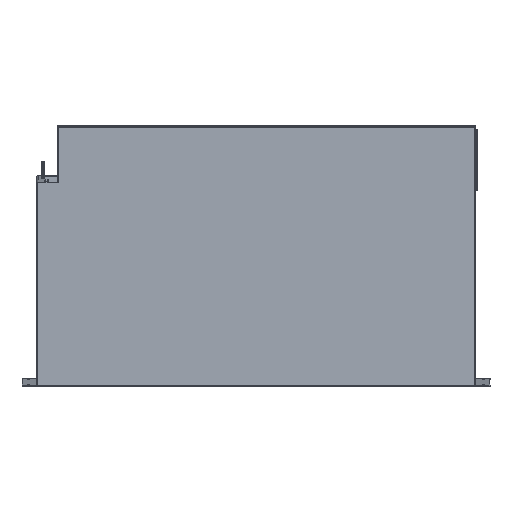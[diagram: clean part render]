
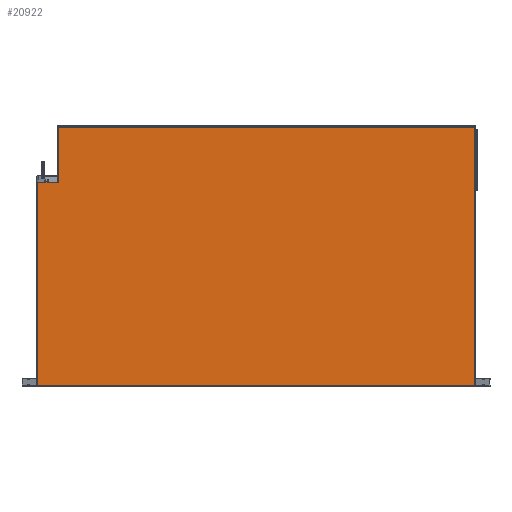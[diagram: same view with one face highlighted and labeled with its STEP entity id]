
A CAD part, front view. The second image highlights one B-rep face of the part: STEP entity #20922.
In plain terms, the highlighted planar face has unit normal (0, -1, 0) as drawn and (0, 0, -1) by its records, which use the part's own axes.
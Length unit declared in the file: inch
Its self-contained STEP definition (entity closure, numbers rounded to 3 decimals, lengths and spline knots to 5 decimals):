
#947 = LINE ( 'NONE', #1108, #16431 ) ;
#952 = VECTOR ( 'NONE', #15065, 39.37008 ) ;
#1108 = CARTESIAN_POINT ( 'NONE',  ( 11.99935, 42.66261, -0.06 ) ) ;
#1117 = CARTESIAN_POINT ( 'NONE',  ( 36.79265, 2.76816, -0.06 ) ) ;
#1228 = LINE ( 'NONE', #17107, #952 ) ;
#1262 = ORIENTED_EDGE ( 'NONE', *, *, #11849, .F. ) ;
#1387 = DIRECTION ( 'NONE',  ( 0., -1., 0. ) ) ;
#1460 = VERTEX_POINT ( 'NONE', #3161 ) ;
#1474 = PLANE ( 'NONE',  #21176 ) ;
#1967 = LINE ( 'NONE', #16677, #6698 ) ;
#2163 = LINE ( 'NONE', #3833, #12236 ) ;
#2252 = EDGE_CURVE ( 'NONE', #10615, #2945, #2693, .T. ) ;
#2693 = LINE ( 'NONE', #17754, #23759 ) ;
#2945 = VERTEX_POINT ( 'NONE', #19773 ) ;
#3161 = CARTESIAN_POINT ( 'NONE',  ( 11.93096, 0.77156, -0.06 ) ) ;
#3292 = VECTOR ( 'NONE', #19564, 39.37008 ) ;
#3506 = CARTESIAN_POINT ( 'NONE',  ( 11.93096, 42.66261, -0.06 ) ) ;
#3833 = CARTESIAN_POINT ( 'NONE',  ( 36.79265, 42.62886, -0.06 ) ) ;
#3901 = VERTEX_POINT ( 'NONE', #5127 ) ;
#4334 = CARTESIAN_POINT ( 'NONE',  ( 36.73265, 42.666, -0.06 ) ) ;
#4401 = VERTEX_POINT ( 'NONE', #23255 ) ;
#4518 = VERTEX_POINT ( 'NONE', #12620 ) ;
#4555 = DIRECTION ( 'NONE',  ( 0., -1., 0. ) ) ;
#4684 = DIRECTION ( 'NONE',  ( 0., -1., 0. ) ) ;
#4922 = ORIENTED_EDGE ( 'NONE', *, *, #18302, .T. ) ;
#5127 = CARTESIAN_POINT ( 'NONE',  ( 36.73265, 2.80531, -0.06 ) ) ;
#5515 = CARTESIAN_POINT ( 'NONE',  ( 36.73265, 2.80531, -0.06 ) ) ;
#5623 = VERTEX_POINT ( 'NONE', #3506 ) ;
#5699 = VERTEX_POINT ( 'NONE', #4334 ) ;
#6113 = CARTESIAN_POINT ( 'NONE',  ( 31.54265, 2.77156, -0.06 ) ) ;
#6509 = EDGE_CURVE ( 'NONE', #7453, #4401, #1228, .T. ) ;
#6538 = ORIENTED_EDGE ( 'NONE', *, *, #7070, .F. ) ;
#6698 = VECTOR ( 'NONE', #4555, 39.37008 ) ;
#7070 = EDGE_CURVE ( 'NONE', #3901, #4401, #12921, .T. ) ;
#7071 = LINE ( 'NONE', #6113, #21886 ) ;
#7449 = CARTESIAN_POINT ( 'NONE',  ( 11.99935, 42.72261, -0.06 ) ) ;
#7453 = VERTEX_POINT ( 'NONE', #24315 ) ;
#7505 = CARTESIAN_POINT ( 'NONE',  ( 31.54265, 2.77156, -0.06 ) ) ;
#7536 = DIRECTION ( 'NONE',  ( 0., 0., -1. ) ) ;
#7554 = EDGE_CURVE ( 'NONE', #7453, #10686, #2163, .T. ) ;
#7641 = CARTESIAN_POINT ( 'NONE',  ( 11.99935, 0.77156, -0.06 ) ) ;
#7662 = ORIENTED_EDGE ( 'NONE', *, *, #14288, .T. ) ;
#7981 = LINE ( 'NONE', #17569, #3292 ) ;
#8021 = ORIENTED_EDGE ( 'NONE', *, *, #22880, .T. ) ;
#8108 = VECTOR ( 'NONE', #23687, 39.37008 ) ;
#8120 = EDGE_CURVE ( 'NONE', #4518, #17350, #24888, .T. ) ;
#8123 = DIRECTION ( 'NONE',  ( -1., 0., 0. ) ) ;
#8134 = DIRECTION ( 'NONE',  ( -1., 0., 0. ) ) ;
#8136 = LINE ( 'NONE', #7449, #23644 ) ;
#8357 = FACE_OUTER_BOUND ( 'NONE', #20491, .T. ) ;
#8374 = ORIENTED_EDGE ( 'NONE', *, *, #2252, .F. ) ;
#8974 = VERTEX_POINT ( 'NONE', #7505 ) ;
#9113 = CARTESIAN_POINT ( 'NONE',  ( 11.99935, 42.66261, -0.06 ) ) ;
#9429 = CARTESIAN_POINT ( 'NONE',  ( 36.73265, 2.76816, -0.06 ) ) ;
#9595 = LINE ( 'NONE', #11595, #20311 ) ;
#9621 = LINE ( 'NONE', #17004, #15021 ) ;
#9838 = ORIENTED_EDGE ( 'NONE', *, *, #7554, .F. ) ;
#9953 = DIRECTION ( 'NONE',  ( -1., 0., 0. ) ) ;
#10019 = DIRECTION ( 'NONE',  ( 1., 0., 0. ) ) ;
#10207 = LINE ( 'NONE', #10658, #20314 ) ;
#10615 = VERTEX_POINT ( 'NONE', #7641 ) ;
#10658 = CARTESIAN_POINT ( 'NONE',  ( 36.73265, 42.78261, -0.06 ) ) ;
#10686 = VERTEX_POINT ( 'NONE', #12040 ) ;
#11092 = EDGE_CURVE ( 'NONE', #12065, #23229, #8136, .T. ) ;
#11370 = ORIENTED_EDGE ( 'NONE', *, *, #15657, .F. ) ;
#11595 = CARTESIAN_POINT ( 'NONE',  ( 36.79265, 42.666, -0.06 ) ) ;
#11849 = EDGE_CURVE ( 'NONE', #12737, #22285, #13798, .T. ) ;
#12040 = CARTESIAN_POINT ( 'NONE',  ( 36.73265, 42.62886, -0.06 ) ) ;
#12055 = CARTESIAN_POINT ( 'NONE',  ( 36.79265, 2.80531, -0.06 ) ) ;
#12065 = VERTEX_POINT ( 'NONE', #13896 ) ;
#12236 = VECTOR ( 'NONE', #9953, 39.37008 ) ;
#12620 = CARTESIAN_POINT ( 'NONE',  ( 31.41765, 0.76816, -0.06 ) ) ;
#12737 = VERTEX_POINT ( 'NONE', #24649 ) ;
#12921 = LINE ( 'NONE', #12055, #21740 ) ;
#13207 = DIRECTION ( 'NONE',  ( 1., 0., 0. ) ) ;
#13798 = LINE ( 'NONE', #1117, #23281 ) ;
#13884 = EDGE_CURVE ( 'NONE', #4518, #2945, #9621, .T. ) ;
#13896 = CARTESIAN_POINT ( 'NONE',  ( 11.99935, 42.666, -0.06 ) ) ;
#14288 = EDGE_CURVE ( 'NONE', #5699, #10686, #10207, .T. ) ;
#15021 = VECTOR ( 'NONE', #19012, 39.37008 ) ;
#15065 = DIRECTION ( 'NONE',  ( 0., -1., 0. ) ) ;
#15193 = LINE ( 'NONE', #5515, #25919 ) ;
#15657 = EDGE_CURVE ( 'NONE', #8974, #12737, #1967, .T. ) ;
#16250 = CARTESIAN_POINT ( 'NONE',  ( 31.41765, 2.77156, -0.06 ) ) ;
#16431 = VECTOR ( 'NONE', #25316, 39.37008 ) ;
#16677 = CARTESIAN_POINT ( 'NONE',  ( 31.54265, 2.71156, -0.06 ) ) ;
#17004 = CARTESIAN_POINT ( 'NONE',  ( 36.79265, 0.76816, -0.06 ) ) ;
#17107 = CARTESIAN_POINT ( 'NONE',  ( 36.73605, 42.62886, -0.06 ) ) ;
#17235 = ORIENTED_EDGE ( 'NONE', *, *, #8120, .F. ) ;
#17350 = VERTEX_POINT ( 'NONE', #16250 ) ;
#17569 = CARTESIAN_POINT ( 'NONE',  ( 11.93096, 42.62886, -0.06 ) ) ;
#17754 = CARTESIAN_POINT ( 'NONE',  ( 11.99935, -0.98147, -0.06 ) ) ;
#17792 = ORIENTED_EDGE ( 'NONE', *, *, #11092, .F. ) ;
#17826 = EDGE_CURVE ( 'NONE', #3901, #22285, #15193, .T. ) ;
#18126 = CARTESIAN_POINT ( 'NONE',  ( 11.99935, 0.77156, -0.06 ) ) ;
#18302 = EDGE_CURVE ( 'NONE', #5623, #23229, #947, .T. ) ;
#18883 = ORIENTED_EDGE ( 'NONE', *, *, #17826, .T. ) ;
#19012 = DIRECTION ( 'NONE',  ( -1., 0., 0. ) ) ;
#19229 = VECTOR ( 'NONE', #8123, 39.37008 ) ;
#19564 = DIRECTION ( 'NONE',  ( 0., 1., 0. ) ) ;
#19626 = CARTESIAN_POINT ( 'NONE',  ( 36.79265, 42.62886, -0.06 ) ) ;
#19640 = DIRECTION ( 'NONE',  ( 0., -1., 0. ) ) ;
#19773 = CARTESIAN_POINT ( 'NONE',  ( 11.99935, 0.76816, -0.06 ) ) ;
#20311 = VECTOR ( 'NONE', #21649, 39.37008 ) ;
#20314 = VECTOR ( 'NONE', #4684, 39.37008 ) ;
#20491 = EDGE_LOOP ( 'NONE', ( #17235, #21648, #8374, #24219, #24104, #4922, #17792, #23929, #7662, #9838, #21060, #6538, #18883, #1262, #11370, #8021 ) ) ;
#20922 = ADVANCED_FACE ( 'NONE', ( #8357 ), #1474, .T. ) ;
#21060 = ORIENTED_EDGE ( 'NONE', *, *, #6509, .T. ) ;
#21176 = AXIS2_PLACEMENT_3D ( 'NONE', #19626, #7536, #21640 ) ;
#21507 = DIRECTION ( 'NONE',  ( 0., -1., 0. ) ) ;
#21640 = DIRECTION ( 'NONE',  ( -1., 0., 0. ) ) ;
#21648 = ORIENTED_EDGE ( 'NONE', *, *, #13884, .T. ) ;
#21649 = DIRECTION ( 'NONE',  ( 1., 0., 0. ) ) ;
#21740 = VECTOR ( 'NONE', #10019, 39.37008 ) ;
#21886 = VECTOR ( 'NONE', #8134, 39.37008 ) ;
#22285 = VERTEX_POINT ( 'NONE', #9429 ) ;
#22289 = EDGE_CURVE ( 'NONE', #1460, #5623, #7981, .T. ) ;
#22754 = EDGE_CURVE ( 'NONE', #12065, #5699, #9595, .T. ) ;
#22880 = EDGE_CURVE ( 'NONE', #8974, #17350, #7071, .T. ) ;
#23229 = VERTEX_POINT ( 'NONE', #9113 ) ;
#23255 = CARTESIAN_POINT ( 'NONE',  ( 36.73605, 2.80531, -0.06 ) ) ;
#23281 = VECTOR ( 'NONE', #13207, 39.37008 ) ;
#23644 = VECTOR ( 'NONE', #1387, 39.37008 ) ;
#23687 = DIRECTION ( 'NONE',  ( 0., 1., 0. ) ) ;
#23704 = EDGE_CURVE ( 'NONE', #10615, #1460, #24004, .T. ) ;
#23759 = VECTOR ( 'NONE', #21507, 39.37008 ) ;
#23929 = ORIENTED_EDGE ( 'NONE', *, *, #22754, .T. ) ;
#24004 = LINE ( 'NONE', #18126, #19229 ) ;
#24104 = ORIENTED_EDGE ( 'NONE', *, *, #22289, .T. ) ;
#24219 = ORIENTED_EDGE ( 'NONE', *, *, #23704, .T. ) ;
#24315 = CARTESIAN_POINT ( 'NONE',  ( 36.73605, 42.62886, -0.06 ) ) ;
#24649 = CARTESIAN_POINT ( 'NONE',  ( 31.54265, 2.76816, -0.06 ) ) ;
#24888 = LINE ( 'NONE', #25019, #8108 ) ;
#25019 = CARTESIAN_POINT ( 'NONE',  ( 31.41765, 0.71156, -0.06 ) ) ;
#25316 = DIRECTION ( 'NONE',  ( 1., 0., 0. ) ) ;
#25919 = VECTOR ( 'NONE', #19640, 39.37008 ) ;
